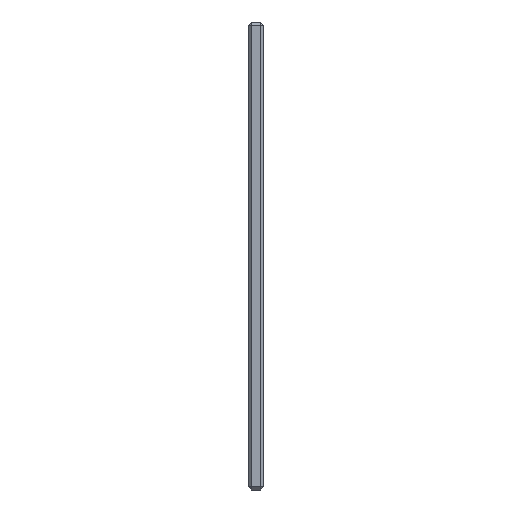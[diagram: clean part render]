
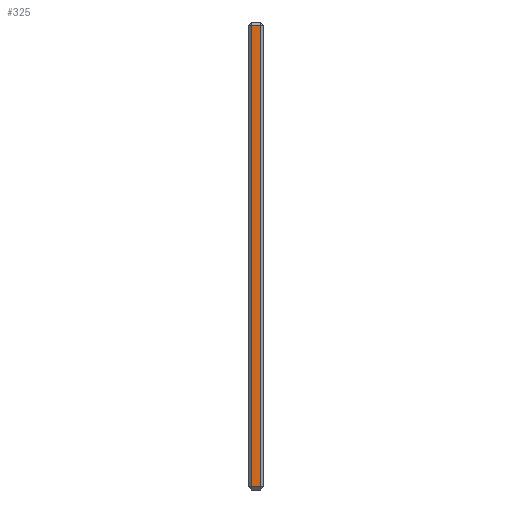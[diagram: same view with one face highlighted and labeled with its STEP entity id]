
A CAD part, left-side view. The second image highlights one B-rep face of the part: STEP entity #325.
In plain terms, the highlighted planar face has unit normal (-1, 0, 0).
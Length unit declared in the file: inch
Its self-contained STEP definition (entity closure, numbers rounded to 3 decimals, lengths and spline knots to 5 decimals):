
#19 = AXIS2_PLACEMENT_3D ( 'NONE', #1207, #951, #1728 ) ;
#49 = VECTOR ( 'NONE', #825, 39.37008 ) ;
#87 = DIRECTION ( 'NONE',  ( 0., -1., 0. ) ) ;
#168 = VERTEX_POINT ( 'NONE', #777 ) ;
#247 = PLANE ( 'NONE',  #19 ) ;
#251 = LINE ( 'NONE', #920, #631 ) ;
#254 = VECTOR ( 'NONE', #1036, 39.37008 ) ;
#325 = ADVANCED_FACE ( 'Placement Plane', ( #954 ), #247, .F. ) ;
#411 = ORIENTED_EDGE ( 'NONE', *, *, #802, .T. ) ;
#432 = LINE ( 'NONE', #701, #49 ) ;
#436 = CARTESIAN_POINT ( 'NONE',  ( -5.875, 0.2, -3.825 ) ) ;
#484 = ORIENTED_EDGE ( 'NONE', *, *, #1039, .T. ) ;
#624 = LINE ( 'NONE', #1286, #646 ) ;
#631 = VECTOR ( 'NONE', #87, 39.37008 ) ;
#646 = VECTOR ( 'NONE', #1323, 39.37008 ) ;
#700 = LINE ( 'NONE', #1308, #254 ) ;
#701 = CARTESIAN_POINT ( 'NONE',  ( -5.875, 0.05, -3.875 ) ) ;
#734 = EDGE_CURVE ( 'NONE', #884, #991, #624, .T. ) ;
#749 = EDGE_LOOP ( 'NONE', ( #1134, #411, #484, #768 ) ) ;
#768 = ORIENTED_EDGE ( 'NONE', *, *, #734, .T. ) ;
#777 = CARTESIAN_POINT ( 'NONE',  ( -5.875, 0.05, -3.825 ) ) ;
#802 = EDGE_CURVE ( 'NONE', #972, #168, #251, .T. ) ;
#825 = DIRECTION ( 'NONE',  ( 0., 0., 1. ) ) ;
#884 = VERTEX_POINT ( 'NONE', #1230 ) ;
#920 = CARTESIAN_POINT ( 'NONE',  ( -5.875, 0.25, -3.825 ) ) ;
#951 = DIRECTION ( 'NONE',  ( 1., 0., 0. ) ) ;
#954 = FACE_OUTER_BOUND ( 'NONE', #749, .T. ) ;
#972 = VERTEX_POINT ( 'NONE', #436 ) ;
#991 = VERTEX_POINT ( 'NONE', #1247 ) ;
#1036 = DIRECTION ( 'NONE',  ( 0., 0., -1. ) ) ;
#1039 = EDGE_CURVE ( 'NONE', #168, #884, #432, .T. ) ;
#1134 = ORIENTED_EDGE ( 'NONE', *, *, #1631, .T. ) ;
#1207 = CARTESIAN_POINT ( 'NONE',  ( -5.875, 0.25, -3.875 ) ) ;
#1230 = CARTESIAN_POINT ( 'NONE',  ( -5.875, 0.05, 3.825 ) ) ;
#1247 = CARTESIAN_POINT ( 'NONE',  ( -5.875, 0.2, 3.825 ) ) ;
#1286 = CARTESIAN_POINT ( 'NONE',  ( -5.875, 0.25, 3.825 ) ) ;
#1308 = CARTESIAN_POINT ( 'NONE',  ( -5.875, 0.2, -3.875 ) ) ;
#1323 = DIRECTION ( 'NONE',  ( 0., 1., 0. ) ) ;
#1631 = EDGE_CURVE ( 'NONE', #991, #972, #700, .T. ) ;
#1728 = DIRECTION ( 'NONE',  ( 0., 0., -1. ) ) ;
